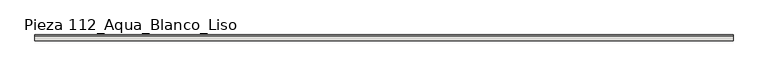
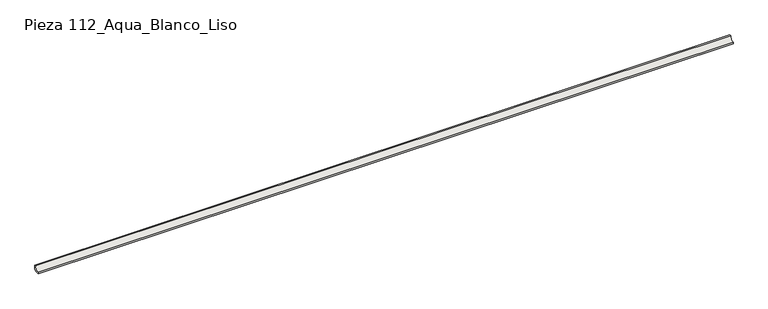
"""IFC4 building model written with IfcOpenShell, lengths in millimetres: slab geometry, ROSA GRES_112 : Pieza 112_Aqua_Blanco_Liso."""

from ifc_helpers import new_model, si_unit, point, frame, frame_2d, origin, place, context, project, spatial, polyline, circle_curve, trimmed, segment, composite_curve, outline, extrude, source, transform, mapped, element, save


def pieza_112_aqua_blanco_liso_a29e3cf4(model_context):
    return source(origin(), model_context, "Body", "SweptSolid", [
        extrude(outline(composite_curve([segment(polyline([(0.0, 8.7114978), (-8.7114978, 0.0), (-40.0, 0.0), (-40.0, 9.9734114)]), True, "CONTINUOUS"), segment(trimmed(circle_curve(frame_2d((-39.9955547, 39.9955547)), 30.0221435), [point((-40.0, 9.9734114))], [point((-9.9734114, 40.0))], True, "CARTESIAN"), True, "CONTINUOUS"), segment(polyline([(-9.9734114, 40.0), (0.0, 40.0), (0.0, 8.7114978)]), True, "CONTINUOUS")], self_intersect=False)), frame((0.0, 0.0, 0.0), z_axis=(1.0, 0.0, 0.0), x_axis=(0.0, 1.0, 0.0)), (0.0, 0.0, 1.0), 4815.0),
    ])


if __name__ == "__main__":
    model = new_model("IFC4")
    model_context = context("Model", 3, world=origin())
    ifc_project = project(units=[si_unit("LENGTHUNIT", "METRE", prefix="MILLI")], contexts=[model_context])
    site = spatial("IfcSite", under=ifc_project)
    building = spatial("IfcBuilding", under=site)
    placement = place(None, origin())
    pieza_112_aqua_blanco_liso_shape = pieza_112_aqua_blanco_liso_a29e3cf4(model_context)
    element("IfcSlab", 1, ObjectType="ROSA GRES_112 : Pieza 112_Aqua_Blanco_Liso", at=placement, inside=building, context=model_context, shape_type="MappedRepresentation", body=[
        mapped(pieza_112_aqua_blanco_liso_shape, transform((0.0, 0.0, 0.0), x_axis=(1.0, 0.0, 0.0), y_axis=(0.0, 1.0, 0.0), z_axis=(0.0, 0.0, 1.0))),
    ])
    save(model, "model.ifc")
